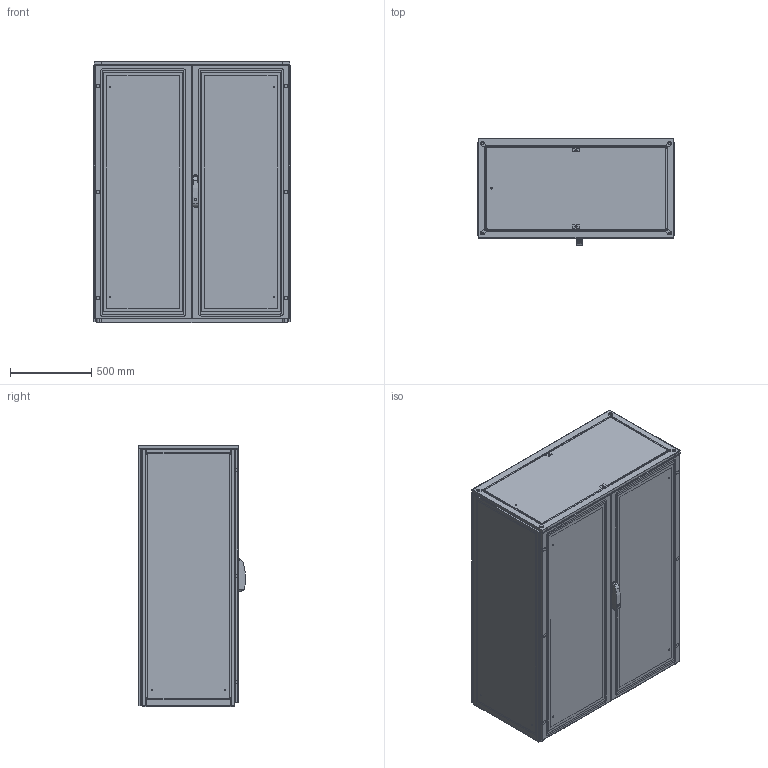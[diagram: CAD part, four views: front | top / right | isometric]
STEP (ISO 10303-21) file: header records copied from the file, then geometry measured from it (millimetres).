
FILE_DESCRIPTION(/* description */ ('STEP AP214'),/* implementation_level */ '2;1');
FILE_NAME(/* name */ 'ENUX121606PR -LOD350',/* time_stamp */ '2025-10-06T09:12:07+02:00',/* author */ ('License CC BY-ND 4.0'),/* organization */ ('CADENAS'),/* preprocessor_version */ 'ST-DEVELOPER v19.3',/* originating_system */ 'PARTsolutions',/* authorisation */ ' ');
FILE_SCHEMA (('AUTOMOTIVE_DESIGN {1 0 10303 214 3 1 1}'));
Length unit declared in the file: millimetre
Products named in the file (11): ENUX121606PR  -LOD350; ENUX121606PR  -LOD3501; ENUX121606PR  -LOD3507; ENUX121606PR  -LOD3502; ENUX121606PR  -LOD35011; ENUX121606PR  -LOD3503; ENUX121606PR  -LOD3508; ENUX121606PR  -LOD3505; ENUX121606PR  -LOD3504; ENUX121606PR  -LOD35010; ENUX121606PR  -LOD3509
Assembly tree (19 placements, depth 2):
  ENUX121606PR  -LOD350
    ENUX121606PR  -LOD3501
    ENUX121606PR  -LOD3507  x2
    ENUX121606PR  -LOD3502
    ENUX121606PR  -LOD35011
    ENUX121606PR  -LOD3503
    ENUX121606PR  -LOD3508
    ENUX121606PR  -LOD3505
    ENUX121606PR  -LOD3504
    ENUX121606PR  -LOD35010  x4
    ENUX121606PR  -LOD3509  x6
Bounding box: 1212 x 657 x 1608.5 mm (x, y, z)
Volume: 27075281.5 mm3; surface area: 21389250.2 mm2
Topology: 19 solids, 26 shells, 1594 faces, 4309 edges, 2820 vertices
Faces by surface type: plane 964, cylinder 580, torus 30, cone 12, sphere 8
Full cylindrical faces by diameter (mm): 6 x15, 9 x13, 12 x4, 14 x2, 17 x2, 28 x2
Entity records: 36174 total; most frequent: CARTESIAN_POINT 6623, DIRECTION 6143, ORIENTED_EDGE 6046, EDGE_CURVE 3023, AXIS2_PLACEMENT_3D 2051, LINE 2041, VECTOR 2041, VERTEX_POINT 1998
